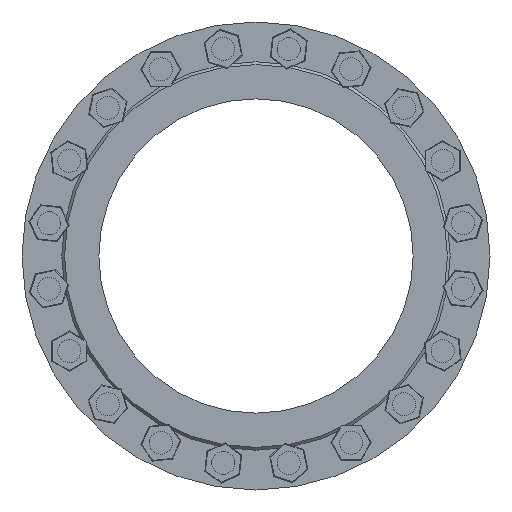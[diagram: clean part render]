
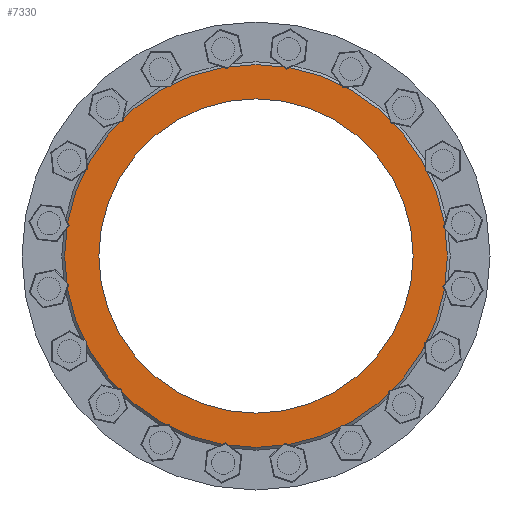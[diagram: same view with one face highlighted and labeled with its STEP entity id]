
A CAD part, left-side view. The second image highlights one B-rep face of the part: STEP entity #7330.
In plain terms, the highlighted planar face has unit normal (-1, 0, 0).
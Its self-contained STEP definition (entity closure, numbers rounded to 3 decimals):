
#2066 = AXIS2_PLACEMENT_3D ( 'NONE', #59184, #54823, #12452 ) ;
#3141 = VERTEX_POINT ( 'NONE', #59122 ) ;
#3394 = DIRECTION ( 'NONE',  ( 0., 1., 0. ) ) ;
#3966 = CARTESIAN_POINT ( 'NONE',  ( 0., -225., 0. ) ) ;
#7330 = ADVANCED_FACE ( 'NONE', ( #11727, #45133 ), #58760, .F. ) ;
#11450 = CIRCLE ( 'NONE', #46015, 274. ) ;
#11727 = FACE_BOUND ( 'NONE', #41506, .T. ) ;
#12452 = DIRECTION ( 'NONE',  ( 0., -1., 0. ) ) ;
#16887 = CIRCLE ( 'NONE', #2066, 225. ) ;
#17792 = EDGE_CURVE ( 'NONE', #3141, #3141, #11450, .T. ) ;
#21095 = DIRECTION ( 'NONE',  ( 0., -1., 0. ) ) ;
#25718 = DIRECTION ( 'NONE',  ( -1., 0., 0. ) ) ;
#26260 = DIRECTION ( 'NONE',  ( 1., 0., 0. ) ) ;
#32618 = AXIS2_PLACEMENT_3D ( 'NONE', #35837, #26260, #3394 ) ;
#35837 = CARTESIAN_POINT ( 'NONE',  ( 0., 0., 0. ) ) ;
#36766 = EDGE_LOOP ( 'NONE', ( #54565 ) ) ;
#41388 = VERTEX_POINT ( 'NONE', #3966 ) ;
#41506 = EDGE_LOOP ( 'NONE', ( #44043 ) ) ;
#44043 = ORIENTED_EDGE ( 'NONE', *, *, #50669, .F. ) ;
#45133 = FACE_OUTER_BOUND ( 'NONE', #36766, .T. ) ;
#46015 = AXIS2_PLACEMENT_3D ( 'NONE', #53562, #25718, #21095 ) ;
#50669 = EDGE_CURVE ( 'NONE', #41388, #41388, #16887, .T. ) ;
#53562 = CARTESIAN_POINT ( 'NONE',  ( 0., 0., 0. ) ) ;
#54565 = ORIENTED_EDGE ( 'NONE', *, *, #17792, .T. ) ;
#54823 = DIRECTION ( 'NONE',  ( -1., 0., 0. ) ) ;
#58760 = PLANE ( 'NONE',  #32618 ) ;
#59122 = CARTESIAN_POINT ( 'NONE',  ( 0., -274., 0. ) ) ;
#59184 = CARTESIAN_POINT ( 'NONE',  ( 0., 0., 0. ) ) ;
